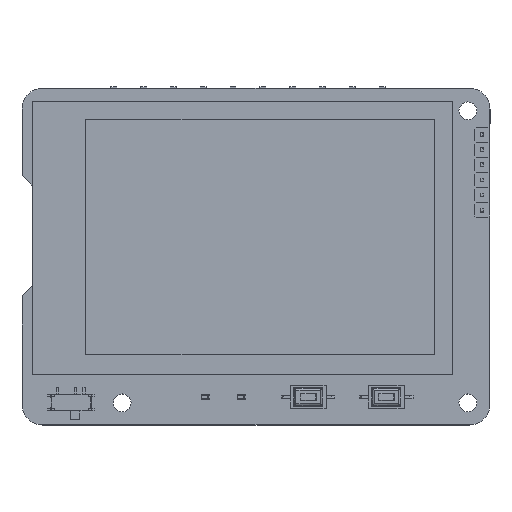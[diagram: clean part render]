
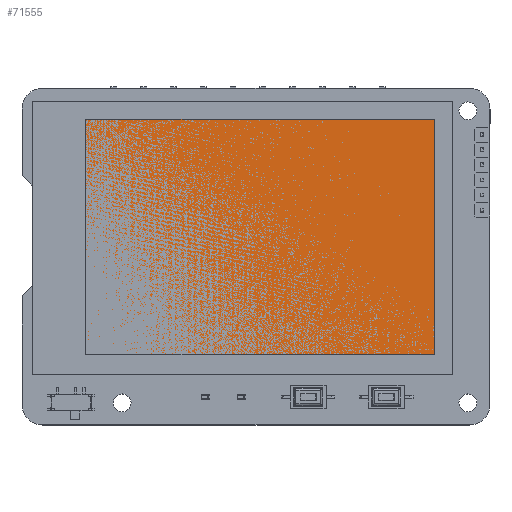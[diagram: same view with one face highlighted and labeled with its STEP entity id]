
A CAD part, top view. The second image highlights one B-rep face of the part: STEP entity #71555.
In plain terms, the highlighted planar face has unit normal (0, 0, 1).
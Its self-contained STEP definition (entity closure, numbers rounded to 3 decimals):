
#62167=PLANE('',#289964);
#71555=ADVANCED_FACE('',(#87075),#62167,.F.);
#87075=FACE_OUTER_BOUND('',#99978,.T.);
#99978=EDGE_LOOP('',(#168946,#168947,#168948,#168949));
#114612=LINE('',#400602,#138672);
#114615=LINE('',#400608,#138675);
#114618=LINE('',#400614,#138678);
#114621=LINE('',#400619,#138681);
#138672=VECTOR('',#309075,1.);
#138675=VECTOR('',#309080,1.);
#138678=VECTOR('',#309085,1.);
#138681=VECTOR('',#309090,1.);
#168946=ORIENTED_EDGE('',*,*,#254482,.F.);
#168947=ORIENTED_EDGE('',*,*,#254491,.F.);
#168948=ORIENTED_EDGE('',*,*,#254488,.F.);
#168949=ORIENTED_EDGE('',*,*,#254485,.F.);
#231020=VERTEX_POINT('',#400601);
#231021=VERTEX_POINT('',#400603);
#231023=VERTEX_POINT('',#400609);
#231025=VERTEX_POINT('',#400615);
#254482=EDGE_CURVE('',#231020,#231021,#114612,.T.);
#254485=EDGE_CURVE('',#231021,#231023,#114615,.T.);
#254488=EDGE_CURVE('',#231023,#231025,#114618,.T.);
#254491=EDGE_CURVE('',#231025,#231020,#114621,.T.);
#289964=AXIS2_PLACEMENT_3D('',#400621,#309093,#309094);
#309075=DIRECTION('',(0.,1.,0.));
#309080=DIRECTION('',(1.,0.,0.));
#309085=DIRECTION('',(0.,-1.,0.));
#309090=DIRECTION('',(-1.,0.,0.));
#309093=DIRECTION('',(0.,0.,-1.));
#309094=DIRECTION('',(1.,0.,0.));
#400601=CARTESIAN_POINT('',(10.06,11.104,0.589));
#400602=CARTESIAN_POINT('',(10.06,11.104,0.589));
#400603=CARTESIAN_POINT('',(10.06,50.604,0.589));
#400608=CARTESIAN_POINT('',(10.06,50.604,0.589));
#400609=CARTESIAN_POINT('',(68.56,50.604,0.589));
#400614=CARTESIAN_POINT('',(68.56,50.604,0.589));
#400615=CARTESIAN_POINT('',(68.56,11.104,0.589));
#400619=CARTESIAN_POINT('',(68.56,11.104,0.589));
#400621=CARTESIAN_POINT('',(36.31,30.704,0.589));
